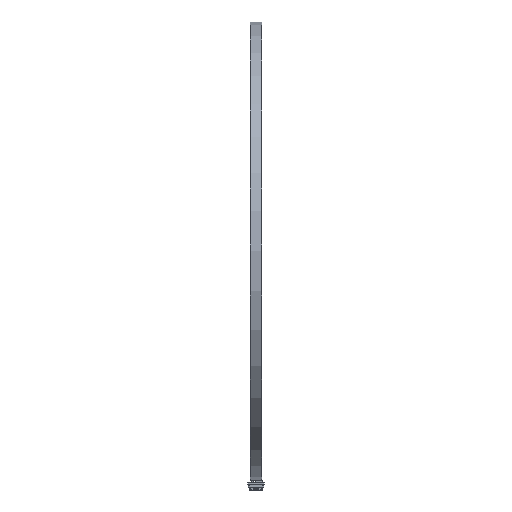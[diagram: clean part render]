
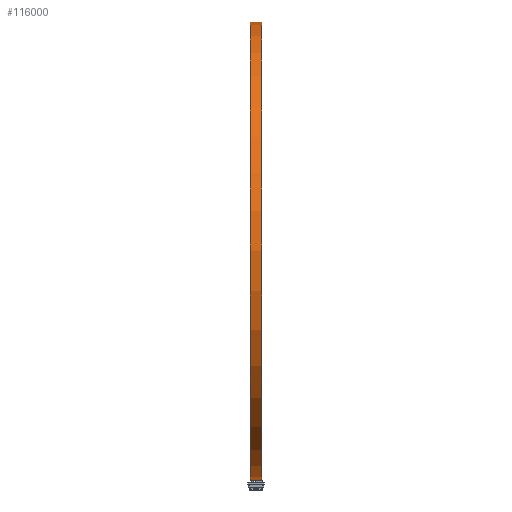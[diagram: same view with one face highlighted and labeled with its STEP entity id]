
A CAD part, left-side view. The second image highlights one B-rep face of the part: STEP entity #116000.
In plain terms, the highlighted cylindrical face has radius 239.09 mm (diameter 478.18 mm), a partial arc.
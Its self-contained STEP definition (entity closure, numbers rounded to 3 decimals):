
#4218 = CARTESIAN_POINT ( 'NONE',  ( 0., 0., -239.09 ) ) ;
#6528 = VERTEX_POINT ( 'NONE', #15418 ) ;
#11052 = CARTESIAN_POINT ( 'NONE',  ( 0., 0., 0. ) ) ;
#15418 = CARTESIAN_POINT ( 'NONE',  ( 0., 0., 239.09 ) ) ;
#18432 = DIRECTION ( 'NONE',  ( 0., -1., 0. ) ) ;
#21183 = DIRECTION ( 'NONE',  ( 0., -1., 0. ) ) ;
#34231 = VERTEX_POINT ( 'NONE', #43004 ) ;
#34637 = CARTESIAN_POINT ( 'NONE',  ( 0., 12., -239.09 ) ) ;
#40062 = LINE ( 'NONE', #112076, #78700 ) ;
#43004 = CARTESIAN_POINT ( 'NONE',  ( 0., 12., 239.09 ) ) ;
#45465 = EDGE_CURVE ( 'NONE', #34231, #6528, #54421, .T. ) ;
#52132 = ORIENTED_EDGE ( 'NONE', *, *, #111062, .T. ) ;
#54237 = CYLINDRICAL_SURFACE ( 'NONE', #54632, 239.09 ) ;
#54421 = LINE ( 'NONE', #82633, #100616 ) ;
#54632 = AXIS2_PLACEMENT_3D ( 'NONE', #11052, #21183, #103962 ) ;
#55083 = EDGE_CURVE ( 'NONE', #34231, #76394, #116552, .T. ) ;
#55886 = CARTESIAN_POINT ( 'NONE',  ( 0., 0., 0. ) ) ;
#56606 = CIRCLE ( 'NONE', #98749, 239.09 ) ;
#71748 = VERTEX_POINT ( 'NONE', #4218 ) ;
#76394 = VERTEX_POINT ( 'NONE', #34637 ) ;
#76819 = DIRECTION ( 'NONE',  ( 0., 0., -1. ) ) ;
#78700 = VECTOR ( 'NONE', #83964, 1000. ) ;
#82633 = CARTESIAN_POINT ( 'NONE',  ( 0., 0., 239.09 ) ) ;
#83964 = DIRECTION ( 'NONE',  ( 0., -1., 0. ) ) ;
#89629 = DIRECTION ( 'NONE',  ( 0., -1., 0. ) ) ;
#94250 = DIRECTION ( 'NONE',  ( 0., -1., 0. ) ) ;
#95541 = AXIS2_PLACEMENT_3D ( 'NONE', #115985, #89629, #108782 ) ;
#98547 = ORIENTED_EDGE ( 'NONE', *, *, #55083, .T. ) ;
#98749 = AXIS2_PLACEMENT_3D ( 'NONE', #55886, #94250, #76819 ) ;
#99229 = FACE_OUTER_BOUND ( 'NONE', #105603, .T. ) ;
#100616 = VECTOR ( 'NONE', #18432, 1000. ) ;
#103962 = DIRECTION ( 'NONE',  ( 0., 0., -1. ) ) ;
#105603 = EDGE_LOOP ( 'NONE', ( #108167, #98547, #52132, #116531 ) ) ;
#108167 = ORIENTED_EDGE ( 'NONE', *, *, #45465, .F. ) ;
#108782 = DIRECTION ( 'NONE',  ( 0., 0., -1. ) ) ;
#111062 = EDGE_CURVE ( 'NONE', #76394, #71748, #40062, .T. ) ;
#112076 = CARTESIAN_POINT ( 'NONE',  ( 0., 0., -239.09 ) ) ;
#115985 = CARTESIAN_POINT ( 'NONE',  ( 0., 12., 0. ) ) ;
#116000 = ADVANCED_FACE ( 'NONE', ( #99229 ), #54237, .T. ) ;
#116531 = ORIENTED_EDGE ( 'NONE', *, *, #117068, .F. ) ;
#116552 = CIRCLE ( 'NONE', #95541, 239.09 ) ;
#117068 = EDGE_CURVE ( 'NONE', #6528, #71748, #56606, .T. ) ;
